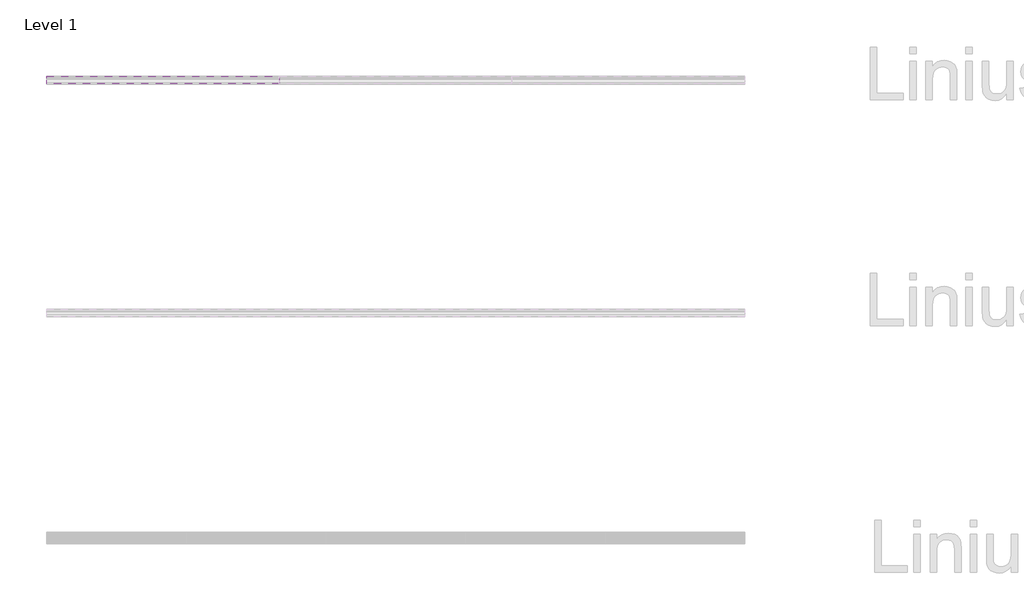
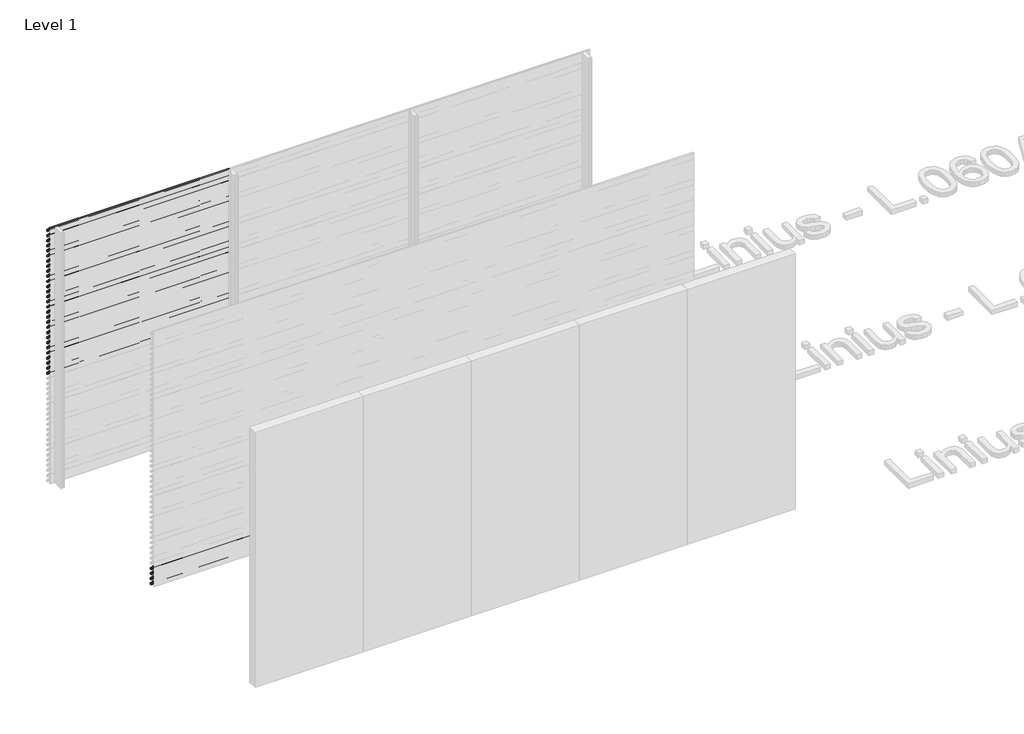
# One storey, part 38 of 153: 33 proxies.
"""IFC4 building model written with IfcOpenShell, lengths in millimetres."""

from ifc_helpers import new_model, si_unit, point, frame, frame_2d, origin, place, context, project, spatial, polyline, circle_curve, trimmed, segment, composite_curve, outline, extrude, element, save

model = new_model("IFC4")

# Units and contexts
model_context = context("Model", 3, world=origin())
ifc_project = project(units=[si_unit("LENGTHUNIT", "METRE", prefix="MILLI")], contexts=[model_context])

# Site, building, storey
site = spatial("IfcSite", under=ifc_project)
building = spatial("IfcBuilding", under=site)
storey = spatial("IfcBuildingStorey", under=building, Name="Level 1", Elevation=0.0)

# Proxies
placement = place(None, origin())
element("IfcBuildingElementProxy", 1, Name="Wall Sweeps", at=placement, inside=storey, context=model_context, shape_type="SweptSolid", body=[
    extrude(outline(composite_curve([segment(polyline([(13985.0540136, 3000.0), (13999.874191, 2998.7034025), (14049.0540136, 2945.0102749), (14049.0540136, 2933.6108187)]), True, "CONTINUOUS"), segment(trimmed(circle_curve(frame_2d((14045.7883652, 2933.897153)), 3.2781774), [point((14049.0540136, 2933.6108187))], [point((14046.4639442, 2930.6893438))], False, "CARTESIAN"), True, "CONTINUOUS"), segment(polyline([(14046.4639442, 2930.6893438), (14034.1895723, 2931.6282758), (13985.0540136, 2985.2730773), (13985.0540136, 3000.0)]), True, "CONTINUOUS")], self_intersect=False), holes=[composite_curve([segment(polyline([(13999.1621773, 2997.2599659), (13986.5540136, 2998.3630372), (13986.5540136, 2985.856213), (14034.8952036, 2933.0786805), (14046.3312542, 2932.2038762)]), True, "CONTINUOUS"), segment(trimmed(circle_curve(frame_2d((14045.7883652, 2933.897153)), 1.7781774), [point((14046.3312542, 2932.2038762))], [point((14047.5540136, 2933.6864389))], True, "CARTESIAN"), True, "CONTINUOUS"), segment(polyline([(14047.5540136, 2933.6864389), (14047.5540136, 2944.4271392), (13999.1621773, 2997.2599659)]), True, "CONTINUOUS")], self_intersect=False)]), frame((44966.6208097, 0.0, 0.0), z_axis=(1.0, 0.0, 0.0), x_axis=(0.0, 1.0, 0.0)), (0.0, 0.0, 1.0), 2000.0000001),
])
element("IfcBuildingElementProxy", 2, Name="Wall Sweeps", at=placement, inside=storey, context=model_context, shape_type="SweptSolid", body=[
    extrude(outline(composite_curve([segment(polyline([(13985.0540136, 2940.0), (13999.874191, 2938.7034025), (14049.0540136, 2885.0102749), (14049.0540136, 2873.6108187)]), True, "CONTINUOUS"), segment(trimmed(circle_curve(frame_2d((14045.7883652, 2873.897153)), 3.2781774), [point((14049.0540136, 2873.6108187))], [point((14046.4639442, 2870.6893438))], False, "CARTESIAN"), True, "CONTINUOUS"), segment(polyline([(14046.4639442, 2870.6893438), (14034.1895723, 2871.6282758), (13985.0540136, 2925.2730773), (13985.0540136, 2940.0)]), True, "CONTINUOUS")], self_intersect=False), holes=[composite_curve([segment(polyline([(13999.1621773, 2937.2599659), (13986.5540136, 2938.3630372), (13986.5540136, 2925.856213), (14034.8952036, 2873.0786805), (14046.3312542, 2872.2038762)]), True, "CONTINUOUS"), segment(trimmed(circle_curve(frame_2d((14045.7883652, 2873.897153)), 1.7781774), [point((14046.3312542, 2872.2038762))], [point((14047.5540136, 2873.6864389))], True, "CARTESIAN"), True, "CONTINUOUS"), segment(polyline([(14047.5540136, 2873.6864389), (14047.5540136, 2884.4271392), (13999.1621773, 2937.2599659)]), True, "CONTINUOUS")], self_intersect=False)]), frame((44966.6208097, 0.0, 0.0), z_axis=(1.0, 0.0, 0.0), x_axis=(0.0, 1.0, 0.0)), (0.0, 0.0, 1.0), 2000.0000001),
])
element("IfcBuildingElementProxy", 3, Name="Wall Sweeps", at=placement, inside=storey, context=model_context, shape_type="SweptSolid", body=[
    extrude(outline(composite_curve([segment(polyline([(13985.0540136, 2880.0), (13999.874191, 2878.7034025), (14049.0540136, 2825.0102749), (14049.0540136, 2813.6108187)]), True, "CONTINUOUS"), segment(trimmed(circle_curve(frame_2d((14045.7883652, 2813.897153)), 3.2781774), [point((14049.0540136, 2813.6108187))], [point((14046.4639442, 2810.6893438))], False, "CARTESIAN"), True, "CONTINUOUS"), segment(polyline([(14046.4639442, 2810.6893438), (14034.1895723, 2811.6282758), (13985.0540136, 2865.2730773), (13985.0540136, 2880.0)]), True, "CONTINUOUS")], self_intersect=False), holes=[composite_curve([segment(polyline([(13999.1621773, 2877.2599659), (13986.5540136, 2878.3630372), (13986.5540136, 2865.856213), (14034.8952036, 2813.0786805), (14046.3312542, 2812.2038762)]), True, "CONTINUOUS"), segment(trimmed(circle_curve(frame_2d((14045.7883652, 2813.897153)), 1.7781774), [point((14046.3312542, 2812.2038762))], [point((14047.5540136, 2813.6864389))], True, "CARTESIAN"), True, "CONTINUOUS"), segment(polyline([(14047.5540136, 2813.6864389), (14047.5540136, 2824.4271392), (13999.1621773, 2877.2599659)]), True, "CONTINUOUS")], self_intersect=False)]), frame((44966.6208097, 0.0, 0.0), z_axis=(1.0, 0.0, 0.0), x_axis=(0.0, 1.0, 0.0)), (0.0, 0.0, 1.0), 2000.0000001),
])
element("IfcBuildingElementProxy", 4, Name="Wall Sweeps", at=placement, inside=storey, context=model_context, shape_type="SweptSolid", body=[
    extrude(outline(composite_curve([segment(polyline([(13985.0540136, 2820.0), (13999.874191, 2818.7034025), (14049.0540136, 2765.0102749), (14049.0540136, 2753.6108187)]), True, "CONTINUOUS"), segment(trimmed(circle_curve(frame_2d((14045.7883652, 2753.897153)), 3.2781774), [point((14049.0540136, 2753.6108187))], [point((14046.4639442, 2750.6893438))], False, "CARTESIAN"), True, "CONTINUOUS"), segment(polyline([(14046.4639442, 2750.6893438), (14034.1895723, 2751.6282758), (13985.0540136, 2805.2730773), (13985.0540136, 2820.0)]), True, "CONTINUOUS")], self_intersect=False), holes=[composite_curve([segment(polyline([(13999.1621773, 2817.2599659), (13986.5540136, 2818.3630372), (13986.5540136, 2805.856213), (14034.8952036, 2753.0786805), (14046.3312542, 2752.2038762)]), True, "CONTINUOUS"), segment(trimmed(circle_curve(frame_2d((14045.7883652, 2753.897153)), 1.7781774), [point((14046.3312542, 2752.2038762))], [point((14047.5540136, 2753.6864389))], True, "CARTESIAN"), True, "CONTINUOUS"), segment(polyline([(14047.5540136, 2753.6864389), (14047.5540136, 2764.4271392), (13999.1621773, 2817.2599659)]), True, "CONTINUOUS")], self_intersect=False)]), frame((44966.6208097, 0.0, 0.0), z_axis=(1.0, 0.0, 0.0), x_axis=(0.0, 1.0, 0.0)), (0.0, 0.0, 1.0), 2000.0000001),
])
element("IfcBuildingElementProxy", 5, Name="Wall Sweeps", at=placement, inside=storey, context=model_context, shape_type="SweptSolid", body=[
    extrude(outline(composite_curve([segment(polyline([(13985.0540136, 2760.0), (13999.874191, 2758.7034025), (14049.0540136, 2705.0102749), (14049.0540136, 2693.6108187)]), True, "CONTINUOUS"), segment(trimmed(circle_curve(frame_2d((14045.7883652, 2693.897153)), 3.2781774), [point((14049.0540136, 2693.6108187))], [point((14046.4639442, 2690.6893438))], False, "CARTESIAN"), True, "CONTINUOUS"), segment(polyline([(14046.4639442, 2690.6893438), (14034.1895723, 2691.6282758), (13985.0540136, 2745.2730773), (13985.0540136, 2760.0)]), True, "CONTINUOUS")], self_intersect=False), holes=[composite_curve([segment(polyline([(13999.1621773, 2757.2599659), (13986.5540136, 2758.3630372), (13986.5540136, 2745.856213), (14034.8952036, 2693.0786805), (14046.3312542, 2692.2038762)]), True, "CONTINUOUS"), segment(trimmed(circle_curve(frame_2d((14045.7883652, 2693.897153)), 1.7781774), [point((14046.3312542, 2692.2038762))], [point((14047.5540136, 2693.6864389))], True, "CARTESIAN"), True, "CONTINUOUS"), segment(polyline([(14047.5540136, 2693.6864389), (14047.5540136, 2704.4271392), (13999.1621773, 2757.2599659)]), True, "CONTINUOUS")], self_intersect=False)]), frame((44966.6208097, 0.0, 0.0), z_axis=(1.0, 0.0, 0.0), x_axis=(0.0, 1.0, 0.0)), (0.0, 0.0, 1.0), 2000.0000001),
])
element("IfcBuildingElementProxy", 6, Name="Wall Sweeps", at=placement, inside=storey, context=model_context, shape_type="SweptSolid", body=[
    extrude(outline(composite_curve([segment(polyline([(13985.0540136, 2700.0), (13999.874191, 2698.7034025), (14049.0540136, 2645.0102749), (14049.0540136, 2633.6108187)]), True, "CONTINUOUS"), segment(trimmed(circle_curve(frame_2d((14045.7883652, 2633.897153)), 3.2781774), [point((14049.0540136, 2633.6108187))], [point((14046.4639442, 2630.6893438))], False, "CARTESIAN"), True, "CONTINUOUS"), segment(polyline([(14046.4639442, 2630.6893438), (14034.1895723, 2631.6282758), (13985.0540136, 2685.2730773), (13985.0540136, 2700.0)]), True, "CONTINUOUS")], self_intersect=False), holes=[composite_curve([segment(polyline([(13999.1621773, 2697.2599659), (13986.5540136, 2698.3630372), (13986.5540136, 2685.856213), (14034.8952036, 2633.0786805), (14046.3312542, 2632.2038762)]), True, "CONTINUOUS"), segment(trimmed(circle_curve(frame_2d((14045.7883652, 2633.897153)), 1.7781774), [point((14046.3312542, 2632.2038762))], [point((14047.5540136, 2633.6864389))], True, "CARTESIAN"), True, "CONTINUOUS"), segment(polyline([(14047.5540136, 2633.6864389), (14047.5540136, 2644.4271392), (13999.1621773, 2697.2599659)]), True, "CONTINUOUS")], self_intersect=False)]), frame((44966.6208097, 0.0, 0.0), z_axis=(1.0, 0.0, 0.0), x_axis=(0.0, 1.0, 0.0)), (0.0, 0.0, 1.0), 2000.0000001),
])
element("IfcBuildingElementProxy", 7, Name="Wall Sweeps", at=placement, inside=storey, context=model_context, shape_type="SweptSolid", body=[
    extrude(outline(composite_curve([segment(polyline([(13985.0540136, 2640.0), (13999.874191, 2638.7034025), (14049.0540136, 2585.0102749), (14049.0540136, 2573.6108187)]), True, "CONTINUOUS"), segment(trimmed(circle_curve(frame_2d((14045.7883652, 2573.897153)), 3.2781774), [point((14049.0540136, 2573.6108187))], [point((14046.4639442, 2570.6893438))], False, "CARTESIAN"), True, "CONTINUOUS"), segment(polyline([(14046.4639442, 2570.6893438), (14034.1895723, 2571.6282758), (13985.0540136, 2625.2730773), (13985.0540136, 2640.0)]), True, "CONTINUOUS")], self_intersect=False), holes=[composite_curve([segment(polyline([(13999.1621773, 2637.2599659), (13986.5540136, 2638.3630372), (13986.5540136, 2625.856213), (14034.8952036, 2573.0786805), (14046.3312542, 2572.2038762)]), True, "CONTINUOUS"), segment(trimmed(circle_curve(frame_2d((14045.7883652, 2573.897153)), 1.7781774), [point((14046.3312542, 2572.2038762))], [point((14047.5540136, 2573.6864389))], True, "CARTESIAN"), True, "CONTINUOUS"), segment(polyline([(14047.5540136, 2573.6864389), (14047.5540136, 2584.4271392), (13999.1621773, 2637.2599659)]), True, "CONTINUOUS")], self_intersect=False)]), frame((44966.6208097, 0.0, 0.0), z_axis=(1.0, 0.0, 0.0), x_axis=(0.0, 1.0, 0.0)), (0.0, 0.0, 1.0), 2000.0000001),
])
element("IfcBuildingElementProxy", 8, Name="Wall Sweeps", at=placement, inside=storey, context=model_context, shape_type="SweptSolid", body=[
    extrude(outline(composite_curve([segment(polyline([(13985.0540136, 2580.0), (13999.874191, 2578.7034025), (14049.0540136, 2525.0102749), (14049.0540136, 2513.6108187)]), True, "CONTINUOUS"), segment(trimmed(circle_curve(frame_2d((14045.7883652, 2513.897153)), 3.2781774), [point((14049.0540136, 2513.6108187))], [point((14046.4639442, 2510.6893438))], False, "CARTESIAN"), True, "CONTINUOUS"), segment(polyline([(14046.4639442, 2510.6893438), (14034.1895723, 2511.6282758), (13985.0540136, 2565.2730773), (13985.0540136, 2580.0)]), True, "CONTINUOUS")], self_intersect=False), holes=[composite_curve([segment(polyline([(13999.1621773, 2577.2599659), (13986.5540136, 2578.3630372), (13986.5540136, 2565.856213), (14034.8952036, 2513.0786805), (14046.3312542, 2512.2038762)]), True, "CONTINUOUS"), segment(trimmed(circle_curve(frame_2d((14045.7883652, 2513.897153)), 1.7781774), [point((14046.3312542, 2512.2038762))], [point((14047.5540136, 2513.6864389))], True, "CARTESIAN"), True, "CONTINUOUS"), segment(polyline([(14047.5540136, 2513.6864389), (14047.5540136, 2524.4271392), (13999.1621773, 2577.2599659)]), True, "CONTINUOUS")], self_intersect=False)]), frame((44966.6208097, 0.0, 0.0), z_axis=(1.0, 0.0, 0.0), x_axis=(0.0, 1.0, 0.0)), (0.0, 0.0, 1.0), 2000.0000001),
])
element("IfcBuildingElementProxy", 9, Name="Wall Sweeps", at=placement, inside=storey, context=model_context, shape_type="SweptSolid", body=[
    extrude(outline(composite_curve([segment(polyline([(13985.0540136, 2520.0), (13999.874191, 2518.7034025), (14049.0540136, 2465.0102749), (14049.0540136, 2453.6108187)]), True, "CONTINUOUS"), segment(trimmed(circle_curve(frame_2d((14045.7883652, 2453.897153)), 3.2781774), [point((14049.0540136, 2453.6108187))], [point((14046.4639442, 2450.6893438))], False, "CARTESIAN"), True, "CONTINUOUS"), segment(polyline([(14046.4639442, 2450.6893438), (14034.1895723, 2451.6282758), (13985.0540136, 2505.2730773), (13985.0540136, 2520.0)]), True, "CONTINUOUS")], self_intersect=False), holes=[composite_curve([segment(polyline([(13999.1621773, 2517.2599659), (13986.5540136, 2518.3630372), (13986.5540136, 2505.856213), (14034.8952036, 2453.0786805), (14046.3312542, 2452.2038762)]), True, "CONTINUOUS"), segment(trimmed(circle_curve(frame_2d((14045.7883652, 2453.897153)), 1.7781774), [point((14046.3312542, 2452.2038762))], [point((14047.5540136, 2453.6864389))], True, "CARTESIAN"), True, "CONTINUOUS"), segment(polyline([(14047.5540136, 2453.6864389), (14047.5540136, 2464.4271392), (13999.1621773, 2517.2599659)]), True, "CONTINUOUS")], self_intersect=False)]), frame((44966.6208097, 0.0, 0.0), z_axis=(1.0, 0.0, 0.0), x_axis=(0.0, 1.0, 0.0)), (0.0, 0.0, 1.0), 2000.0000001),
])
element("IfcBuildingElementProxy", 10, Name="Wall Sweeps", at=placement, inside=storey, context=model_context, shape_type="SweptSolid", body=[
    extrude(outline(composite_curve([segment(polyline([(13985.0540136, 2460.0), (13999.874191, 2458.7034025), (14049.0540136, 2405.0102749), (14049.0540136, 2393.6108187)]), True, "CONTINUOUS"), segment(trimmed(circle_curve(frame_2d((14045.7883652, 2393.897153)), 3.2781774), [point((14049.0540136, 2393.6108187))], [point((14046.4639442, 2390.6893438))], False, "CARTESIAN"), True, "CONTINUOUS"), segment(polyline([(14046.4639442, 2390.6893438), (14034.1895723, 2391.6282758), (13985.0540136, 2445.2730773), (13985.0540136, 2460.0)]), True, "CONTINUOUS")], self_intersect=False), holes=[composite_curve([segment(polyline([(13999.1621773, 2457.2599659), (13986.5540136, 2458.3630372), (13986.5540136, 2445.856213), (14034.8952036, 2393.0786805), (14046.3312542, 2392.2038762)]), True, "CONTINUOUS"), segment(trimmed(circle_curve(frame_2d((14045.7883652, 2393.897153)), 1.7781774), [point((14046.3312542, 2392.2038762))], [point((14047.5540136, 2393.6864389))], True, "CARTESIAN"), True, "CONTINUOUS"), segment(polyline([(14047.5540136, 2393.6864389), (14047.5540136, 2404.4271392), (13999.1621773, 2457.2599659)]), True, "CONTINUOUS")], self_intersect=False)]), frame((44966.6208097, 0.0, 0.0), z_axis=(1.0, 0.0, 0.0), x_axis=(0.0, 1.0, 0.0)), (0.0, 0.0, 1.0), 2000.0000001),
])
element("IfcBuildingElementProxy", 11, Name="Wall Sweeps", at=placement, inside=storey, context=model_context, shape_type="SweptSolid", body=[
    extrude(outline(composite_curve([segment(polyline([(13985.0540136, 2400.0), (13999.874191, 2398.7034025), (14049.0540136, 2345.0102749), (14049.0540136, 2333.6108187)]), True, "CONTINUOUS"), segment(trimmed(circle_curve(frame_2d((14045.7883652, 2333.897153)), 3.2781774), [point((14049.0540136, 2333.6108187))], [point((14046.4639442, 2330.6893438))], False, "CARTESIAN"), True, "CONTINUOUS"), segment(polyline([(14046.4639442, 2330.6893438), (14034.1895723, 2331.6282758), (13985.0540136, 2385.2730773), (13985.0540136, 2400.0)]), True, "CONTINUOUS")], self_intersect=False), holes=[composite_curve([segment(polyline([(13999.1621773, 2397.2599659), (13986.5540136, 2398.3630372), (13986.5540136, 2385.856213), (14034.8952036, 2333.0786805), (14046.3312542, 2332.2038762)]), True, "CONTINUOUS"), segment(trimmed(circle_curve(frame_2d((14045.7883652, 2333.897153)), 1.7781774), [point((14046.3312542, 2332.2038762))], [point((14047.5540136, 2333.6864389))], True, "CARTESIAN"), True, "CONTINUOUS"), segment(polyline([(14047.5540136, 2333.6864389), (14047.5540136, 2344.4271392), (13999.1621773, 2397.2599659)]), True, "CONTINUOUS")], self_intersect=False)]), frame((44966.6208097, 0.0, 0.0), z_axis=(1.0, 0.0, 0.0), x_axis=(0.0, 1.0, 0.0)), (0.0, 0.0, 1.0), 2000.0000001),
])
element("IfcBuildingElementProxy", 12, Name="Wall Sweeps", at=placement, inside=storey, context=model_context, shape_type="SweptSolid", body=[
    extrude(outline(composite_curve([segment(polyline([(13985.0540136, 2340.0), (13999.874191, 2338.7034025), (14049.0540136, 2285.0102749), (14049.0540136, 2273.6108187)]), True, "CONTINUOUS"), segment(trimmed(circle_curve(frame_2d((14045.7883652, 2273.897153)), 3.2781774), [point((14049.0540136, 2273.6108187))], [point((14046.4639442, 2270.6893438))], False, "CARTESIAN"), True, "CONTINUOUS"), segment(polyline([(14046.4639442, 2270.6893438), (14034.1895723, 2271.6282758), (13985.0540136, 2325.2730773), (13985.0540136, 2340.0)]), True, "CONTINUOUS")], self_intersect=False), holes=[composite_curve([segment(polyline([(13999.1621773, 2337.2599659), (13986.5540136, 2338.3630372), (13986.5540136, 2325.856213), (14034.8952036, 2273.0786805), (14046.3312542, 2272.2038762)]), True, "CONTINUOUS"), segment(trimmed(circle_curve(frame_2d((14045.7883652, 2273.897153)), 1.7781774), [point((14046.3312542, 2272.2038762))], [point((14047.5540136, 2273.6864389))], True, "CARTESIAN"), True, "CONTINUOUS"), segment(polyline([(14047.5540136, 2273.6864389), (14047.5540136, 2284.4271392), (13999.1621773, 2337.2599659)]), True, "CONTINUOUS")], self_intersect=False)]), frame((44966.6208097, 0.0, 0.0), z_axis=(1.0, 0.0, 0.0), x_axis=(0.0, 1.0, 0.0)), (0.0, 0.0, 1.0), 2000.0000001),
])
element("IfcBuildingElementProxy", 13, Name="Wall Sweeps", at=placement, inside=storey, context=model_context, shape_type="SweptSolid", body=[
    extrude(outline(composite_curve([segment(polyline([(13985.0540136, 2280.0), (13999.874191, 2278.7034025), (14049.0540136, 2225.0102749), (14049.0540136, 2213.6108187)]), True, "CONTINUOUS"), segment(trimmed(circle_curve(frame_2d((14045.7883652, 2213.897153)), 3.2781774), [point((14049.0540136, 2213.6108187))], [point((14046.4639442, 2210.6893438))], False, "CARTESIAN"), True, "CONTINUOUS"), segment(polyline([(14046.4639442, 2210.6893438), (14034.1895723, 2211.6282758), (13985.0540136, 2265.2730773), (13985.0540136, 2280.0)]), True, "CONTINUOUS")], self_intersect=False), holes=[composite_curve([segment(polyline([(13999.1621773, 2277.2599659), (13986.5540136, 2278.3630372), (13986.5540136, 2265.856213), (14034.8952036, 2213.0786805), (14046.3312542, 2212.2038762)]), True, "CONTINUOUS"), segment(trimmed(circle_curve(frame_2d((14045.7883652, 2213.897153)), 1.7781774), [point((14046.3312542, 2212.2038762))], [point((14047.5540136, 2213.6864389))], True, "CARTESIAN"), True, "CONTINUOUS"), segment(polyline([(14047.5540136, 2213.6864389), (14047.5540136, 2224.4271392), (13999.1621773, 2277.2599659)]), True, "CONTINUOUS")], self_intersect=False)]), frame((44966.6208097, 0.0, 0.0), z_axis=(1.0, 0.0, 0.0), x_axis=(0.0, 1.0, 0.0)), (0.0, 0.0, 1.0), 2000.0000001),
])
element("IfcBuildingElementProxy", 14, Name="Wall Sweeps", at=placement, inside=storey, context=model_context, shape_type="SweptSolid", body=[
    extrude(outline(composite_curve([segment(polyline([(13985.0540136, 2220.0), (13999.874191, 2218.7034025), (14049.0540136, 2165.0102749), (14049.0540136, 2153.6108187)]), True, "CONTINUOUS"), segment(trimmed(circle_curve(frame_2d((14045.7883652, 2153.897153)), 3.2781774), [point((14049.0540136, 2153.6108187))], [point((14046.4639442, 2150.6893438))], False, "CARTESIAN"), True, "CONTINUOUS"), segment(polyline([(14046.4639442, 2150.6893438), (14034.1895723, 2151.6282758), (13985.0540136, 2205.2730773), (13985.0540136, 2220.0)]), True, "CONTINUOUS")], self_intersect=False), holes=[composite_curve([segment(polyline([(13999.1621773, 2217.2599659), (13986.5540136, 2218.3630372), (13986.5540136, 2205.856213), (14034.8952036, 2153.0786805), (14046.3312542, 2152.2038762)]), True, "CONTINUOUS"), segment(trimmed(circle_curve(frame_2d((14045.7883652, 2153.897153)), 1.7781774), [point((14046.3312542, 2152.2038762))], [point((14047.5540136, 2153.6864389))], True, "CARTESIAN"), True, "CONTINUOUS"), segment(polyline([(14047.5540136, 2153.6864389), (14047.5540136, 2164.4271392), (13999.1621773, 2217.2599659)]), True, "CONTINUOUS")], self_intersect=False)]), frame((44966.6208097, 0.0, 0.0), z_axis=(1.0, 0.0, 0.0), x_axis=(0.0, 1.0, 0.0)), (0.0, 0.0, 1.0), 2000.0000001),
])
element("IfcBuildingElementProxy", 15, Name="Wall Sweeps", at=placement, inside=storey, context=model_context, shape_type="SweptSolid", body=[
    extrude(outline(composite_curve([segment(polyline([(13985.0540136, 2160.0), (13999.874191, 2158.7034025), (14049.0540136, 2105.0102749), (14049.0540136, 2093.6108187)]), True, "CONTINUOUS"), segment(trimmed(circle_curve(frame_2d((14045.7883652, 2093.897153)), 3.2781774), [point((14049.0540136, 2093.6108187))], [point((14046.4639442, 2090.6893438))], False, "CARTESIAN"), True, "CONTINUOUS"), segment(polyline([(14046.4639442, 2090.6893438), (14034.1895723, 2091.6282758), (13985.0540136, 2145.2730773), (13985.0540136, 2160.0)]), True, "CONTINUOUS")], self_intersect=False), holes=[composite_curve([segment(polyline([(13999.1621773, 2157.2599659), (13986.5540136, 2158.3630372), (13986.5540136, 2145.856213), (14034.8952036, 2093.0786805), (14046.3312542, 2092.2038762)]), True, "CONTINUOUS"), segment(trimmed(circle_curve(frame_2d((14045.7883652, 2093.897153)), 1.7781774), [point((14046.3312542, 2092.2038762))], [point((14047.5540136, 2093.6864389))], True, "CARTESIAN"), True, "CONTINUOUS"), segment(polyline([(14047.5540136, 2093.6864389), (14047.5540136, 2104.4271392), (13999.1621773, 2157.2599659)]), True, "CONTINUOUS")], self_intersect=False)]), frame((44966.6208097, 0.0, 0.0), z_axis=(1.0, 0.0, 0.0), x_axis=(0.0, 1.0, 0.0)), (0.0, 0.0, 1.0), 2000.0000001),
])
element("IfcBuildingElementProxy", 16, Name="Wall Sweeps", at=placement, inside=storey, context=model_context, shape_type="SweptSolid", body=[
    extrude(outline(composite_curve([segment(polyline([(13985.0540136, 2100.0), (13999.874191, 2098.7034025), (14049.0540136, 2045.0102749), (14049.0540136, 2033.6108187)]), True, "CONTINUOUS"), segment(trimmed(circle_curve(frame_2d((14045.7883652, 2033.897153)), 3.2781774), [point((14049.0540136, 2033.6108187))], [point((14046.4639442, 2030.6893438))], False, "CARTESIAN"), True, "CONTINUOUS"), segment(polyline([(14046.4639442, 2030.6893438), (14034.1895723, 2031.6282758), (13985.0540136, 2085.2730773), (13985.0540136, 2100.0)]), True, "CONTINUOUS")], self_intersect=False), holes=[composite_curve([segment(polyline([(13999.1621773, 2097.2599659), (13986.5540136, 2098.3630372), (13986.5540136, 2085.856213), (14034.8952036, 2033.0786805), (14046.3312542, 2032.2038762)]), True, "CONTINUOUS"), segment(trimmed(circle_curve(frame_2d((14045.7883652, 2033.897153)), 1.7781774), [point((14046.3312542, 2032.2038762))], [point((14047.5540136, 2033.6864389))], True, "CARTESIAN"), True, "CONTINUOUS"), segment(polyline([(14047.5540136, 2033.6864389), (14047.5540136, 2044.4271392), (13999.1621773, 2097.2599659)]), True, "CONTINUOUS")], self_intersect=False)]), frame((44966.6208097, 0.0, 0.0), z_axis=(1.0, 0.0, 0.0), x_axis=(0.0, 1.0, 0.0)), (0.0, 0.0, 1.0), 2000.0000001),
])
element("IfcBuildingElementProxy", 17, Name="Wall Sweeps", at=placement, inside=storey, context=model_context, shape_type="SweptSolid", body=[
    extrude(outline(composite_curve([segment(polyline([(13985.0540136, 2040.0), (13999.874191, 2038.7034025), (14049.0540136, 1985.0102749), (14049.0540136, 1973.6108187)]), True, "CONTINUOUS"), segment(trimmed(circle_curve(frame_2d((14045.7883652, 1973.897153)), 3.2781774), [point((14049.0540136, 1973.6108187))], [point((14046.4639442, 1970.6893438))], False, "CARTESIAN"), True, "CONTINUOUS"), segment(polyline([(14046.4639442, 1970.6893438), (14034.1895723, 1971.6282758), (13985.0540136, 2025.2730773), (13985.0540136, 2040.0)]), True, "CONTINUOUS")], self_intersect=False), holes=[composite_curve([segment(polyline([(13999.1621773, 2037.2599659), (13986.5540136, 2038.3630372), (13986.5540136, 2025.856213), (14034.8952036, 1973.0786805), (14046.3312542, 1972.2038762)]), True, "CONTINUOUS"), segment(trimmed(circle_curve(frame_2d((14045.7883652, 1973.897153)), 1.7781774), [point((14046.3312542, 1972.2038762))], [point((14047.5540136, 1973.6864389))], True, "CARTESIAN"), True, "CONTINUOUS"), segment(polyline([(14047.5540136, 1973.6864389), (14047.5540136, 1984.4271392), (13999.1621773, 2037.2599659)]), True, "CONTINUOUS")], self_intersect=False)]), frame((44966.6208097, 0.0, 0.0), z_axis=(1.0, 0.0, 0.0), x_axis=(0.0, 1.0, 0.0)), (0.0, 0.0, 1.0), 2000.0000001),
])
element("IfcBuildingElementProxy", 18, Name="Wall Sweeps", at=placement, inside=storey, context=model_context, shape_type="SweptSolid", body=[
    extrude(outline(composite_curve([segment(polyline([(13985.0540136, 1980.0), (13999.874191, 1978.7034025), (14049.0540136, 1925.0102749), (14049.0540136, 1913.6108187)]), True, "CONTINUOUS"), segment(trimmed(circle_curve(frame_2d((14045.7883652, 1913.897153)), 3.2781774), [point((14049.0540136, 1913.6108187))], [point((14046.4639442, 1910.6893438))], False, "CARTESIAN"), True, "CONTINUOUS"), segment(polyline([(14046.4639442, 1910.6893438), (14034.1895723, 1911.6282758), (13985.0540136, 1965.2730773), (13985.0540136, 1980.0)]), True, "CONTINUOUS")], self_intersect=False), holes=[composite_curve([segment(polyline([(13999.1621773, 1977.2599659), (13986.5540136, 1978.3630372), (13986.5540136, 1965.856213), (14034.8952036, 1913.0786805), (14046.3312542, 1912.2038762)]), True, "CONTINUOUS"), segment(trimmed(circle_curve(frame_2d((14045.7883652, 1913.897153)), 1.7781774), [point((14046.3312542, 1912.2038762))], [point((14047.5540136, 1913.6864389))], True, "CARTESIAN"), True, "CONTINUOUS"), segment(polyline([(14047.5540136, 1913.6864389), (14047.5540136, 1924.4271392), (13999.1621773, 1977.2599659)]), True, "CONTINUOUS")], self_intersect=False)]), frame((44966.6208097, 0.0, 0.0), z_axis=(1.0, 0.0, 0.0), x_axis=(0.0, 1.0, 0.0)), (0.0, 0.0, 1.0), 2000.0000001),
])
element("IfcBuildingElementProxy", 19, Name="Wall Sweeps", at=placement, inside=storey, context=model_context, shape_type="SweptSolid", body=[
    extrude(outline(composite_curve([segment(polyline([(13985.0540136, 1920.0), (13999.874191, 1918.7034025), (14049.0540136, 1865.0102749), (14049.0540136, 1853.6108187)]), True, "CONTINUOUS"), segment(trimmed(circle_curve(frame_2d((14045.7883652, 1853.897153)), 3.2781774), [point((14049.0540136, 1853.6108187))], [point((14046.4639442, 1850.6893438))], False, "CARTESIAN"), True, "CONTINUOUS"), segment(polyline([(14046.4639442, 1850.6893438), (14034.1895723, 1851.6282758), (13985.0540136, 1905.2730773), (13985.0540136, 1920.0)]), True, "CONTINUOUS")], self_intersect=False), holes=[composite_curve([segment(polyline([(13999.1621773, 1917.2599659), (13986.5540136, 1918.3630372), (13986.5540136, 1905.856213), (14034.8952036, 1853.0786805), (14046.3312542, 1852.2038762)]), True, "CONTINUOUS"), segment(trimmed(circle_curve(frame_2d((14045.7883652, 1853.897153)), 1.7781774), [point((14046.3312542, 1852.2038762))], [point((14047.5540136, 1853.6864389))], True, "CARTESIAN"), True, "CONTINUOUS"), segment(polyline([(14047.5540136, 1853.6864389), (14047.5540136, 1864.4271392), (13999.1621773, 1917.2599659)]), True, "CONTINUOUS")], self_intersect=False)]), frame((44966.6208097, 0.0, 0.0), z_axis=(1.0, 0.0, 0.0), x_axis=(0.0, 1.0, 0.0)), (0.0, 0.0, 1.0), 2000.0000001),
])
element("IfcBuildingElementProxy", 20, Name="Wall Sweeps", at=placement, inside=storey, context=model_context, shape_type="SweptSolid", body=[
    extrude(outline(composite_curve([segment(polyline([(13985.0540136, 1860.0), (13999.874191, 1858.7034025), (14049.0540136, 1805.0102749), (14049.0540136, 1793.6108187)]), True, "CONTINUOUS"), segment(trimmed(circle_curve(frame_2d((14045.7883652, 1793.897153)), 3.2781774), [point((14049.0540136, 1793.6108187))], [point((14046.4639442, 1790.6893438))], False, "CARTESIAN"), True, "CONTINUOUS"), segment(polyline([(14046.4639442, 1790.6893438), (14034.1895723, 1791.6282758), (13985.0540136, 1845.2730773), (13985.0540136, 1860.0)]), True, "CONTINUOUS")], self_intersect=False), holes=[composite_curve([segment(polyline([(13999.1621773, 1857.2599659), (13986.5540136, 1858.3630372), (13986.5540136, 1845.856213), (14034.8952036, 1793.0786805), (14046.3312542, 1792.2038762)]), True, "CONTINUOUS"), segment(trimmed(circle_curve(frame_2d((14045.7883652, 1793.897153)), 1.7781774), [point((14046.3312542, 1792.2038762))], [point((14047.5540136, 1793.6864389))], True, "CARTESIAN"), True, "CONTINUOUS"), segment(polyline([(14047.5540136, 1793.6864389), (14047.5540136, 1804.4271392), (13999.1621773, 1857.2599659)]), True, "CONTINUOUS")], self_intersect=False)]), frame((44966.6208097, 0.0, 0.0), z_axis=(1.0, 0.0, 0.0), x_axis=(0.0, 1.0, 0.0)), (0.0, 0.0, 1.0), 2000.0000001),
])
element("IfcBuildingElementProxy", 21, Name="Wall Sweeps", at=placement, inside=storey, context=model_context, shape_type="SweptSolid", body=[
    extrude(outline(composite_curve([segment(polyline([(13985.0540136, 1800.0), (13999.874191, 1798.7034025), (14049.0540136, 1745.0102749), (14049.0540136, 1733.6108187)]), True, "CONTINUOUS"), segment(trimmed(circle_curve(frame_2d((14045.7883652, 1733.897153)), 3.2781774), [point((14049.0540136, 1733.6108187))], [point((14046.4639442, 1730.6893438))], False, "CARTESIAN"), True, "CONTINUOUS"), segment(polyline([(14046.4639442, 1730.6893438), (14034.1895723, 1731.6282758), (13985.0540136, 1785.2730773), (13985.0540136, 1800.0)]), True, "CONTINUOUS")], self_intersect=False), holes=[composite_curve([segment(polyline([(13999.1621773, 1797.2599659), (13986.5540136, 1798.3630372), (13986.5540136, 1785.856213), (14034.8952036, 1733.0786805), (14046.3312542, 1732.2038762)]), True, "CONTINUOUS"), segment(trimmed(circle_curve(frame_2d((14045.7883652, 1733.897153)), 1.7781774), [point((14046.3312542, 1732.2038762))], [point((14047.5540136, 1733.6864389))], True, "CARTESIAN"), True, "CONTINUOUS"), segment(polyline([(14047.5540136, 1733.6864389), (14047.5540136, 1744.4271392), (13999.1621773, 1797.2599659)]), True, "CONTINUOUS")], self_intersect=False)]), frame((44966.6208097, 0.0, 0.0), z_axis=(1.0, 0.0, 0.0), x_axis=(0.0, 1.0, 0.0)), (0.0, 0.0, 1.0), 2000.0000001),
])
element("IfcBuildingElementProxy", 22, Name="Wall Sweeps", at=placement, inside=storey, context=model_context, shape_type="SweptSolid", body=[
    extrude(outline(composite_curve([segment(polyline([(13985.0540136, 1740.0), (13999.874191, 1738.7034025), (14049.0540136, 1685.0102749), (14049.0540136, 1673.6108187)]), True, "CONTINUOUS"), segment(trimmed(circle_curve(frame_2d((14045.7883652, 1673.897153)), 3.2781774), [point((14049.0540136, 1673.6108187))], [point((14046.4639442, 1670.6893438))], False, "CARTESIAN"), True, "CONTINUOUS"), segment(polyline([(14046.4639442, 1670.6893438), (14034.1895723, 1671.6282758), (13985.0540136, 1725.2730773), (13985.0540136, 1740.0)]), True, "CONTINUOUS")], self_intersect=False), holes=[composite_curve([segment(polyline([(13999.1621773, 1737.2599659), (13986.5540136, 1738.3630372), (13986.5540136, 1725.856213), (14034.8952036, 1673.0786805), (14046.3312542, 1672.2038762)]), True, "CONTINUOUS"), segment(trimmed(circle_curve(frame_2d((14045.7883652, 1673.897153)), 1.7781774), [point((14046.3312542, 1672.2038762))], [point((14047.5540136, 1673.6864389))], True, "CARTESIAN"), True, "CONTINUOUS"), segment(polyline([(14047.5540136, 1673.6864389), (14047.5540136, 1684.4271392), (13999.1621773, 1737.2599659)]), True, "CONTINUOUS")], self_intersect=False)]), frame((44966.6208097, 0.0, 0.0), z_axis=(1.0, 0.0, 0.0), x_axis=(0.0, 1.0, 0.0)), (0.0, 0.0, 1.0), 2000.0000001),
])
element("IfcBuildingElementProxy", 23, Name="Wall Sweeps", at=placement, inside=storey, context=model_context, shape_type="SweptSolid", body=[
    extrude(outline(composite_curve([segment(polyline([(13985.0540136, 1680.0), (13999.874191, 1678.7034025), (14049.0540136, 1625.0102749), (14049.0540136, 1613.6108187)]), True, "CONTINUOUS"), segment(trimmed(circle_curve(frame_2d((14045.7883652, 1613.897153)), 3.2781774), [point((14049.0540136, 1613.6108187))], [point((14046.4639442, 1610.6893438))], False, "CARTESIAN"), True, "CONTINUOUS"), segment(polyline([(14046.4639442, 1610.6893438), (14034.1895723, 1611.6282758), (13985.0540136, 1665.2730773), (13985.0540136, 1680.0)]), True, "CONTINUOUS")], self_intersect=False), holes=[composite_curve([segment(polyline([(13999.1621773, 1677.2599659), (13986.5540136, 1678.3630372), (13986.5540136, 1665.856213), (14034.8952036, 1613.0786805), (14046.3312542, 1612.2038762)]), True, "CONTINUOUS"), segment(trimmed(circle_curve(frame_2d((14045.7883652, 1613.897153)), 1.7781774), [point((14046.3312542, 1612.2038762))], [point((14047.5540136, 1613.6864389))], True, "CARTESIAN"), True, "CONTINUOUS"), segment(polyline([(14047.5540136, 1613.6864389), (14047.5540136, 1624.4271392), (13999.1621773, 1677.2599659)]), True, "CONTINUOUS")], self_intersect=False)]), frame((44966.6208097, 0.0, 0.0), z_axis=(1.0, 0.0, 0.0), x_axis=(0.0, 1.0, 0.0)), (0.0, 0.0, 1.0), 2000.0000001),
])
element("IfcBuildingElementProxy", 24, Name="Wall Sweeps", at=placement, inside=storey, context=model_context, shape_type="SweptSolid", body=[
    extrude(outline(composite_curve([segment(polyline([(13985.0540136, 1620.0), (13999.874191, 1618.7034025), (14049.0540136, 1565.0102749), (14049.0540136, 1553.6108187)]), True, "CONTINUOUS"), segment(trimmed(circle_curve(frame_2d((14045.7883652, 1553.897153)), 3.2781774), [point((14049.0540136, 1553.6108187))], [point((14046.4639442, 1550.6893438))], False, "CARTESIAN"), True, "CONTINUOUS"), segment(polyline([(14046.4639442, 1550.6893438), (14034.1895723, 1551.6282758), (13985.0540136, 1605.2730773), (13985.0540136, 1620.0)]), True, "CONTINUOUS")], self_intersect=False), holes=[composite_curve([segment(polyline([(13999.1621773, 1617.2599659), (13986.5540136, 1618.3630372), (13986.5540136, 1605.856213), (14034.8952036, 1553.0786805), (14046.3312542, 1552.2038762)]), True, "CONTINUOUS"), segment(trimmed(circle_curve(frame_2d((14045.7883652, 1553.897153)), 1.7781774), [point((14046.3312542, 1552.2038762))], [point((14047.5540136, 1553.6864389))], True, "CARTESIAN"), True, "CONTINUOUS"), segment(polyline([(14047.5540136, 1553.6864389), (14047.5540136, 1564.4271392), (13999.1621773, 1617.2599659)]), True, "CONTINUOUS")], self_intersect=False)]), frame((44966.6208097, 0.0, 0.0), z_axis=(1.0, 0.0, 0.0), x_axis=(0.0, 1.0, 0.0)), (0.0, 0.0, 1.0), 2000.0000001),
])
element("IfcBuildingElementProxy", 25, Name="Wall Sweeps", at=placement, inside=storey, context=model_context, shape_type="SweptSolid", body=[
    extrude(outline(composite_curve([segment(polyline([(13985.0540136, 1560.0), (13999.874191, 1558.7034025), (14049.0540136, 1505.0102749), (14049.0540136, 1493.6108187)]), True, "CONTINUOUS"), segment(trimmed(circle_curve(frame_2d((14045.7883652, 1493.897153)), 3.2781774), [point((14049.0540136, 1493.6108187))], [point((14046.4639442, 1490.6893438))], False, "CARTESIAN"), True, "CONTINUOUS"), segment(polyline([(14046.4639442, 1490.6893438), (14034.1895723, 1491.6282758), (13985.0540136, 1545.2730773), (13985.0540136, 1560.0)]), True, "CONTINUOUS")], self_intersect=False), holes=[composite_curve([segment(polyline([(13999.1621773, 1557.2599659), (13986.5540136, 1558.3630372), (13986.5540136, 1545.856213), (14034.8952036, 1493.0786805), (14046.3312542, 1492.2038762)]), True, "CONTINUOUS"), segment(trimmed(circle_curve(frame_2d((14045.7883652, 1493.897153)), 1.7781774), [point((14046.3312542, 1492.2038762))], [point((14047.5540136, 1493.6864389))], True, "CARTESIAN"), True, "CONTINUOUS"), segment(polyline([(14047.5540136, 1493.6864389), (14047.5540136, 1504.4271392), (13999.1621773, 1557.2599659)]), True, "CONTINUOUS")], self_intersect=False)]), frame((44966.6208097, 0.0, 0.0), z_axis=(1.0, 0.0, 0.0), x_axis=(0.0, 1.0, 0.0)), (0.0, 0.0, 1.0), 2000.0000001),
])
element("IfcBuildingElementProxy", 26, Name="Wall Sweeps", at=placement, inside=storey, context=model_context, shape_type="SweptSolid", body=[
    extrude(outline(composite_curve([segment(polyline([(13985.0540136, 1500.0), (13999.874191, 1498.7034025), (14049.0540136, 1445.0102749), (14049.0540136, 1433.6108187)]), True, "CONTINUOUS"), segment(trimmed(circle_curve(frame_2d((14045.7883652, 1433.897153)), 3.2781774), [point((14049.0540136, 1433.6108187))], [point((14046.4639442, 1430.6893438))], False, "CARTESIAN"), True, "CONTINUOUS"), segment(polyline([(14046.4639442, 1430.6893438), (14034.1895723, 1431.6282758), (13985.0540136, 1485.2730773), (13985.0540136, 1500.0)]), True, "CONTINUOUS")], self_intersect=False), holes=[composite_curve([segment(polyline([(13999.1621773, 1497.2599659), (13986.5540136, 1498.3630372), (13986.5540136, 1485.856213), (14034.8952036, 1433.0786805), (14046.3312542, 1432.2038762)]), True, "CONTINUOUS"), segment(trimmed(circle_curve(frame_2d((14045.7883652, 1433.897153)), 1.7781774), [point((14046.3312542, 1432.2038762))], [point((14047.5540136, 1433.6864389))], True, "CARTESIAN"), True, "CONTINUOUS"), segment(polyline([(14047.5540136, 1433.6864389), (14047.5540136, 1444.4271392), (13999.1621773, 1497.2599659)]), True, "CONTINUOUS")], self_intersect=False)]), frame((44966.6208097, 0.0, 0.0), z_axis=(1.0, 0.0, 0.0), x_axis=(0.0, 1.0, 0.0)), (0.0, 0.0, 1.0), 2000.0000001),
])
element("IfcBuildingElementProxy", 27, Name="Wall Sweeps", at=placement, inside=storey, context=model_context, shape_type="SweptSolid", body=[
    extrude(outline(composite_curve([segment(polyline([(13985.0540136, 1440.0), (13999.874191, 1438.7034025), (14049.0540136, 1385.0102749), (14049.0540136, 1373.6108187)]), True, "CONTINUOUS"), segment(trimmed(circle_curve(frame_2d((14045.7883652, 1373.897153)), 3.2781774), [point((14049.0540136, 1373.6108187))], [point((14046.4639442, 1370.6893438))], False, "CARTESIAN"), True, "CONTINUOUS"), segment(polyline([(14046.4639442, 1370.6893438), (14034.1895723, 1371.6282758), (13985.0540136, 1425.2730773), (13985.0540136, 1440.0)]), True, "CONTINUOUS")], self_intersect=False), holes=[composite_curve([segment(polyline([(13999.1621773, 1437.2599659), (13986.5540136, 1438.3630372), (13986.5540136, 1425.856213), (14034.8952036, 1373.0786805), (14046.3312542, 1372.2038762)]), True, "CONTINUOUS"), segment(trimmed(circle_curve(frame_2d((14045.7883652, 1373.897153)), 1.7781774), [point((14046.3312542, 1372.2038762))], [point((14047.5540136, 1373.6864389))], True, "CARTESIAN"), True, "CONTINUOUS"), segment(polyline([(14047.5540136, 1373.6864389), (14047.5540136, 1384.4271392), (13999.1621773, 1437.2599659)]), True, "CONTINUOUS")], self_intersect=False)]), frame((44966.6208097, 0.0, 0.0), z_axis=(1.0, 0.0, 0.0), x_axis=(0.0, 1.0, 0.0)), (0.0, 0.0, 1.0), 2000.0000001),
])
element("IfcBuildingElementProxy", 28, Name="Wall Sweeps", at=placement, inside=storey, context=model_context, shape_type="SweptSolid", body=[
    extrude(outline(composite_curve([segment(polyline([(13985.0540136, 1380.0), (13999.874191, 1378.7034025), (14049.0540136, 1325.0102749), (14049.0540136, 1313.6108187)]), True, "CONTINUOUS"), segment(trimmed(circle_curve(frame_2d((14045.7883652, 1313.897153)), 3.2781774), [point((14049.0540136, 1313.6108187))], [point((14046.4639442, 1310.6893438))], False, "CARTESIAN"), True, "CONTINUOUS"), segment(polyline([(14046.4639442, 1310.6893438), (14034.1895723, 1311.6282758), (13985.0540136, 1365.2730773), (13985.0540136, 1380.0)]), True, "CONTINUOUS")], self_intersect=False), holes=[composite_curve([segment(polyline([(13999.1621773, 1377.2599659), (13986.5540136, 1378.3630372), (13986.5540136, 1365.856213), (14034.8952036, 1313.0786805), (14046.3312542, 1312.2038762)]), True, "CONTINUOUS"), segment(trimmed(circle_curve(frame_2d((14045.7883652, 1313.897153)), 1.7781774), [point((14046.3312542, 1312.2038762))], [point((14047.5540136, 1313.6864389))], True, "CARTESIAN"), True, "CONTINUOUS"), segment(polyline([(14047.5540136, 1313.6864389), (14047.5540136, 1324.4271392), (13999.1621773, 1377.2599659)]), True, "CONTINUOUS")], self_intersect=False)]), frame((44966.6208097, 0.0, 0.0), z_axis=(1.0, 0.0, 0.0), x_axis=(0.0, 1.0, 0.0)), (0.0, 0.0, 1.0), 2000.0000001),
])
element("IfcBuildingElementProxy", 29, Name="Wall Sweeps", at=placement, inside=storey, context=model_context, shape_type="SweptSolid", body=[
    extrude(outline(composite_curve([segment(polyline([(13985.0540136, 1320.0), (13999.874191, 1318.7034025), (14049.0540136, 1265.0102749), (14049.0540136, 1253.6108187)]), True, "CONTINUOUS"), segment(trimmed(circle_curve(frame_2d((14045.7883652, 1253.897153)), 3.2781774), [point((14049.0540136, 1253.6108187))], [point((14046.4639442, 1250.6893438))], False, "CARTESIAN"), True, "CONTINUOUS"), segment(polyline([(14046.4639442, 1250.6893438), (14034.1895723, 1251.6282758), (13985.0540136, 1305.2730773), (13985.0540136, 1320.0)]), True, "CONTINUOUS")], self_intersect=False), holes=[composite_curve([segment(polyline([(13999.1621773, 1317.2599659), (13986.5540136, 1318.3630372), (13986.5540136, 1305.856213), (14034.8952036, 1253.0786805), (14046.3312542, 1252.2038762)]), True, "CONTINUOUS"), segment(trimmed(circle_curve(frame_2d((14045.7883652, 1253.897153)), 1.7781774), [point((14046.3312542, 1252.2038762))], [point((14047.5540136, 1253.6864389))], True, "CARTESIAN"), True, "CONTINUOUS"), segment(polyline([(14047.5540136, 1253.6864389), (14047.5540136, 1264.4271392), (13999.1621773, 1317.2599659)]), True, "CONTINUOUS")], self_intersect=False)]), frame((44966.6208097, 0.0, 0.0), z_axis=(1.0, 0.0, 0.0), x_axis=(0.0, 1.0, 0.0)), (0.0, 0.0, 1.0), 2000.0000001),
])
element("IfcBuildingElementProxy", 30, Name="Wall Sweeps", at=placement, inside=storey, context=model_context, shape_type="SweptSolid", body=[
    extrude(outline(composite_curve([segment(polyline([(11985.0540136, 240.0), (11999.874191, 238.7034025), (12049.0540136, 185.0102749), (12049.0540136, 173.6108187)]), True, "CONTINUOUS"), segment(trimmed(circle_curve(frame_2d((12045.7883652, 173.897153)), 3.2781774), [point((12049.0540136, 173.6108187))], [point((12046.4639442, 170.6893438))], False, "CARTESIAN"), True, "CONTINUOUS"), segment(polyline([(12046.4639442, 170.6893438), (12034.1895723, 171.6282758), (11985.0540136, 225.2730773), (11985.0540136, 240.0)]), True, "CONTINUOUS")], self_intersect=False), holes=[composite_curve([segment(polyline([(11999.1621773, 237.2599659), (11986.5540136, 238.3630372), (11986.5540136, 225.856213), (12034.8952036, 173.0786805), (12046.3312542, 172.2038762)]), True, "CONTINUOUS"), segment(trimmed(circle_curve(frame_2d((12045.7883652, 173.897153)), 1.7781774), [point((12046.3312542, 172.2038762))], [point((12047.5540136, 173.6864389))], True, "CARTESIAN"), True, "CONTINUOUS"), segment(polyline([(12047.5540136, 173.6864389), (12047.5540136, 184.4271392), (11999.1621773, 237.2599659)]), True, "CONTINUOUS")], self_intersect=False)]), frame((44966.6208097, 0.0, 0.0), z_axis=(1.0, 0.0, 0.0), x_axis=(0.0, 1.0, 0.0)), (0.0, 0.0, 1.0), 6000.0),
])
element("IfcBuildingElementProxy", 31, Name="Wall Sweeps", at=placement, inside=storey, context=model_context, shape_type="SweptSolid", body=[
    extrude(outline(composite_curve([segment(polyline([(11985.0540136, 180.0), (11999.874191, 178.7034025), (12049.0540136, 125.0102749), (12049.0540136, 113.6108187)]), True, "CONTINUOUS"), segment(trimmed(circle_curve(frame_2d((12045.7883652, 113.897153)), 3.2781774), [point((12049.0540136, 113.6108187))], [point((12046.4639442, 110.6893438))], False, "CARTESIAN"), True, "CONTINUOUS"), segment(polyline([(12046.4639442, 110.6893438), (12034.1895723, 111.6282758), (11985.0540136, 165.2730773), (11985.0540136, 180.0)]), True, "CONTINUOUS")], self_intersect=False), holes=[composite_curve([segment(polyline([(11999.1621773, 177.2599659), (11986.5540136, 178.3630372), (11986.5540136, 165.856213), (12034.8952036, 113.0786805), (12046.3312542, 112.2038762)]), True, "CONTINUOUS"), segment(trimmed(circle_curve(frame_2d((12045.7883652, 113.897153)), 1.7781774), [point((12046.3312542, 112.2038762))], [point((12047.5540136, 113.6864389))], True, "CARTESIAN"), True, "CONTINUOUS"), segment(polyline([(12047.5540136, 113.6864389), (12047.5540136, 124.4271392), (11999.1621773, 177.2599659)]), True, "CONTINUOUS")], self_intersect=False)]), frame((44966.6208097, 0.0, 0.0), z_axis=(1.0, 0.0, 0.0), x_axis=(0.0, 1.0, 0.0)), (0.0, 0.0, 1.0), 6000.0),
])
element("IfcBuildingElementProxy", 32, Name="Wall Sweeps", at=placement, inside=storey, context=model_context, shape_type="SweptSolid", body=[
    extrude(outline(composite_curve([segment(polyline([(11985.0540136, 120.0), (11999.874191, 118.7034025), (12049.0540136, 65.0102749), (12049.0540136, 53.6108187)]), True, "CONTINUOUS"), segment(trimmed(circle_curve(frame_2d((12045.7883652, 53.897153)), 3.2781774), [point((12049.0540136, 53.6108187))], [point((12046.4639442, 50.6893438))], False, "CARTESIAN"), True, "CONTINUOUS"), segment(polyline([(12046.4639442, 50.6893438), (12034.1895723, 51.6282758), (11985.0540136, 105.2730773), (11985.0540136, 120.0)]), True, "CONTINUOUS")], self_intersect=False), holes=[composite_curve([segment(polyline([(11999.1621773, 117.2599659), (11986.5540136, 118.3630372), (11986.5540136, 105.856213), (12034.8952036, 53.0786805), (12046.3312542, 52.2038762)]), True, "CONTINUOUS"), segment(trimmed(circle_curve(frame_2d((12045.7883652, 53.897153)), 1.7781774), [point((12046.3312542, 52.2038762))], [point((12047.5540136, 53.6864389))], True, "CARTESIAN"), True, "CONTINUOUS"), segment(polyline([(12047.5540136, 53.6864389), (12047.5540136, 64.4271392), (11999.1621773, 117.2599659)]), True, "CONTINUOUS")], self_intersect=False)]), frame((44966.6208097, 0.0, 0.0), z_axis=(1.0, 0.0, 0.0), x_axis=(0.0, 1.0, 0.0)), (0.0, 0.0, 1.0), 6000.0),
])
element("IfcBuildingElementProxy", 33, Name="Wall Sweeps", at=placement, inside=storey, context=model_context, shape_type="SweptSolid", body=[
    extrude(outline(composite_curve([segment(polyline([(11985.0540136, 60.0), (11999.874191, 58.7034025), (12049.0540136, 5.0102749), (12049.0540136, -6.3891813)]), True, "CONTINUOUS"), segment(trimmed(circle_curve(frame_2d((12045.7883652, -6.102847)), 3.2781774), [point((12049.0540136, -6.3891813))], [point((12046.4639442, -9.3106562))], False, "CARTESIAN"), True, "CONTINUOUS"), segment(polyline([(12046.4639442, -9.3106562), (12034.1895723, -8.3717242), (11985.0540136, 45.2730773), (11985.0540136, 60.0)]), True, "CONTINUOUS")], self_intersect=False), holes=[composite_curve([segment(polyline([(11999.1621773, 57.2599659), (11986.5540136, 58.3630372), (11986.5540136, 45.856213), (12034.8952036, -6.9213195), (12046.3312542, -7.7961238)]), True, "CONTINUOUS"), segment(trimmed(circle_curve(frame_2d((12045.7883652, -6.102847)), 1.7781774), [point((12046.3312542, -7.7961238))], [point((12047.5540136, -6.3135611))], True, "CARTESIAN"), True, "CONTINUOUS"), segment(polyline([(12047.5540136, -6.3135611), (12047.5540136, 4.4271392), (11999.1621773, 57.2599659)]), True, "CONTINUOUS")], self_intersect=False)]), frame((44966.6208097, 0.0, 0.0), z_axis=(1.0, 0.0, 0.0), x_axis=(0.0, 1.0, 0.0)), (0.0, 0.0, 1.0), 6000.0),
])

save(model, "model.ifc")
